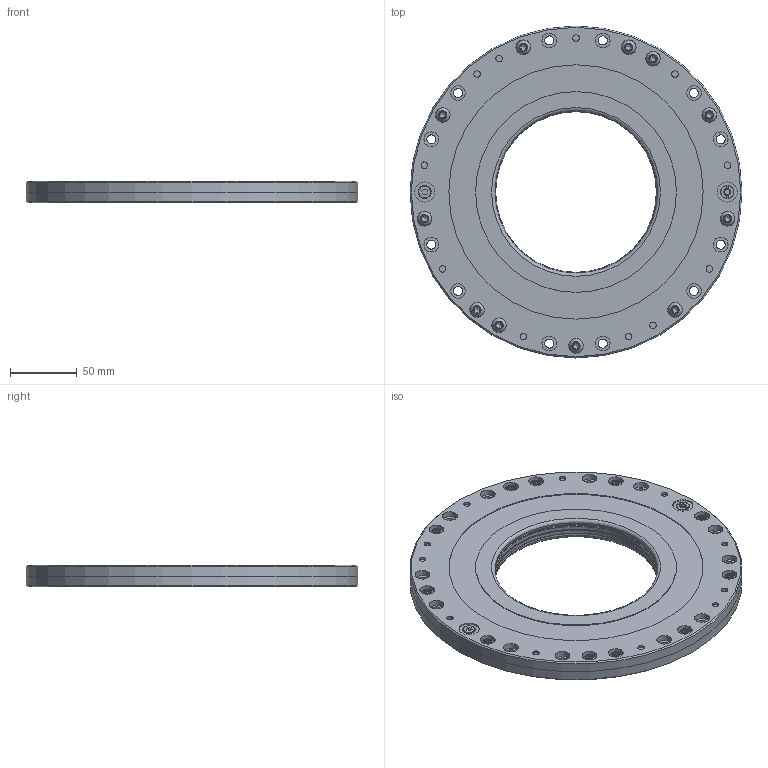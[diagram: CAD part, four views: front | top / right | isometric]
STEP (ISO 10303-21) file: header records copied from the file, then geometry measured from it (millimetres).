
FILE_DESCRIPTION(/* description */ ('Unknown'),/* implementation_level */ '2;1');
FILE_NAME(/* name */ '10027031_RotoClamp RC 120 N_6bar+Booster',/* time_stamp */ '2025-06-26T14:17:51+02:00',/* author */ ('Unknown'),/* organization */ ('Unknown'),/* preprocessor_version */ 'ST-DEVELOPER v19.4',/* originating_system */ 'Solid Edge',/* authorisation */ 'Unknown');
FILE_SCHEMA (('CONFIG_CONTROL_DESIGN'));
Length unit declared in the file: millimetre
Products named in the file (7): 10027031; Verschlussschraube G1;8 x 4,5; Linsenkopfschraube ISO 7380 TX M6 x 10 Ph 012.9; 34-00-0093-E001; 34-06-0051-E001; 34-06-0064-E001; Gewindestift DIN 913 - M6x4 VA
Assembly tree (30 placements, depth 2):
  10027031
    Verschlussschraube G1;8 x 4,5  x3
    Linsenkopfschraube ISO 7380 TX M6 x 10 Ph 012.9  x22
    34-00-0093-E001  x2
    34-06-0051-E001
    34-06-0064-E001
    Gewindestift DIN 913 - M6x4 VA
Bounding box: 248 x 248 x 16.4 mm (x, y, z)
Volume: 553131.1 mm3; surface area: 189186.1 mm2
Topology: 30 solids, 30 shells, 1249 faces, 2992 edges, 1867 vertices
Faces by surface type: cylinder 751, cone 202, plane 179, torus 95, sphere 22
Full cylindrical faces by diameter (mm): 1.5 x5, 4.917 x23, 5.6 x22, 6 x46, 6.8 x47, 7.4 x1, 8.4 x1, 8.566 x4, 9.728 x4, 10.5 x22, 11 x48, 15 x4, 120 x2, 123.6 x2, 150 x2, 190 x2, 248 x2
Entity records: 8822 total; most frequent: CARTESIAN_POINT 2001, DIRECTION 1060, ORIENTED_EDGE 900, AXIS2_PLACEMENT_3D 479, FACE_BOUND 466, EDGE_LOOP 464, EDGE_CURVE 450, VERTEX_POINT 348
